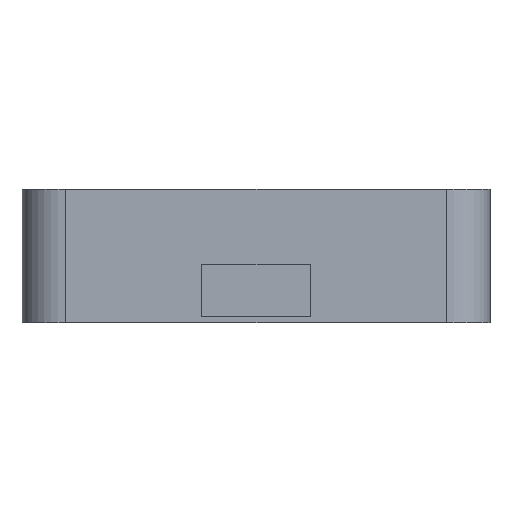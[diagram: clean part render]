
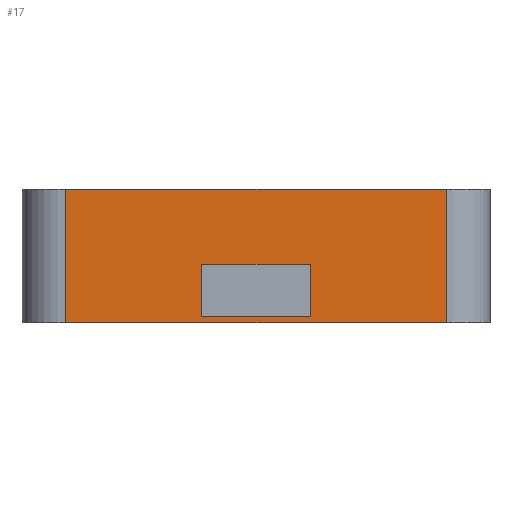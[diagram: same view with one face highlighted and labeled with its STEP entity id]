
A CAD part, left-side view. The second image highlights one B-rep face of the part: STEP entity #17.
In plain terms, the highlighted planar face has unit normal (-1, 0, 0).
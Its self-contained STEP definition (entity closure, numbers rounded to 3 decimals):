
#17 = ADVANCED_FACE('',(#18,#137),#32,.F.);
#18 = FACE_BOUND('',#19,.F.);
#19 = EDGE_LOOP('',(#20,#55,#83,#111));
#20 = ORIENTED_EDGE('',*,*,#21,.T.);
#21 = EDGE_CURVE('',#22,#24,#26,.T.);
#22 = VERTEX_POINT('',#23);
#23 = CARTESIAN_POINT('',(-10.75,-37.75,8.45));
#24 = VERTEX_POINT('',#25);
#25 = CARTESIAN_POINT('',(-10.75,-55.25,8.45));
#26 = SURFACE_CURVE('',#27,(#31,#43),.PCURVE_S1.);
#27 = LINE('',#28,#29);
#28 = CARTESIAN_POINT('',(-10.75,-57.625,8.45));
#29 = VECTOR('',#30,1.);
#30 = DIRECTION('',(0.,-1.,0.));
#31 = PCURVE('',#32,#37);
#32 = PLANE('',#33);
#33 = AXIS2_PLACEMENT_3D('',#34,#35,#36);
#34 = CARTESIAN_POINT('',(-10.75,-57.25,2.3));
#35 = DIRECTION('',(1.,0.,0.));
#36 = DIRECTION('',(0.,0.,1.));
#37 = DEFINITIONAL_REPRESENTATION('',(#38),#42);
#38 = LINE('',#39,#40);
#39 = CARTESIAN_POINT('',(6.15,0.375));
#40 = VECTOR('',#41,1.);
#41 = DIRECTION('',(0.,1.));
#42 = ( GEOMETRIC_REPRESENTATION_CONTEXT(2) 
PARAMETRIC_REPRESENTATION_CONTEXT() REPRESENTATION_CONTEXT('2D SPACE',''
  ) );
#43 = PCURVE('',#44,#49);
#44 = PLANE('',#45);
#45 = AXIS2_PLACEMENT_3D('',#46,#47,#48);
#46 = CARTESIAN_POINT('',(-11.,-58.,8.45));
#47 = DIRECTION('',(0.,0.,1.));
#48 = DIRECTION('',(1.,0.,-0.));
#49 = DEFINITIONAL_REPRESENTATION('',(#50),#54);
#50 = LINE('',#51,#52);
#51 = CARTESIAN_POINT('',(0.25,0.375));
#52 = VECTOR('',#53,1.);
#53 = DIRECTION('',(0.,-1.));
#54 = ( GEOMETRIC_REPRESENTATION_CONTEXT(2) 
PARAMETRIC_REPRESENTATION_CONTEXT() REPRESENTATION_CONTEXT('2D SPACE',''
  ) );
#55 = ORIENTED_EDGE('',*,*,#56,.F.);
#56 = EDGE_CURVE('',#57,#24,#59,.T.);
#57 = VERTEX_POINT('',#58);
#58 = CARTESIAN_POINT('',(-10.75,-55.25,2.3));
#59 = SURFACE_CURVE('',#60,(#64,#71),.PCURVE_S1.);
#60 = LINE('',#61,#62);
#61 = CARTESIAN_POINT('',(-10.75,-55.25,2.3));
#62 = VECTOR('',#63,1.);
#63 = DIRECTION('',(0.,0.,1.));
#64 = PCURVE('',#32,#65);
#65 = DEFINITIONAL_REPRESENTATION('',(#66),#70);
#66 = LINE('',#67,#68);
#67 = CARTESIAN_POINT('',(0.,-2.));
#68 = VECTOR('',#69,1.);
#69 = DIRECTION('',(1.,0.));
#70 = ( GEOMETRIC_REPRESENTATION_CONTEXT(2) 
PARAMETRIC_REPRESENTATION_CONTEXT() REPRESENTATION_CONTEXT('2D SPACE',''
  ) );
#71 = PCURVE('',#72,#77);
#72 = CYLINDRICAL_SURFACE('',#73,2.);
#73 = AXIS2_PLACEMENT_3D('',#74,#75,#76);
#74 = CARTESIAN_POINT('',(-8.75,-55.25,2.3));
#75 = DIRECTION('',(0.,0.,1.));
#76 = DIRECTION('',(-1.,-0.,0.));
#77 = DEFINITIONAL_REPRESENTATION('',(#78),#82);
#78 = LINE('',#79,#80);
#79 = CARTESIAN_POINT('',(0.,0.));
#80 = VECTOR('',#81,1.);
#81 = DIRECTION('',(0.,1.));
#82 = ( GEOMETRIC_REPRESENTATION_CONTEXT(2) 
PARAMETRIC_REPRESENTATION_CONTEXT() REPRESENTATION_CONTEXT('2D SPACE',''
  ) );
#83 = ORIENTED_EDGE('',*,*,#84,.T.);
#84 = EDGE_CURVE('',#57,#85,#87,.T.);
#85 = VERTEX_POINT('',#86);
#86 = CARTESIAN_POINT('',(-10.75,-37.75,2.3));
#87 = SURFACE_CURVE('',#88,(#92,#99),.PCURVE_S1.);
#88 = LINE('',#89,#90);
#89 = CARTESIAN_POINT('',(-10.75,-57.25,2.3));
#90 = VECTOR('',#91,1.);
#91 = DIRECTION('',(0.,1.,0.));
#92 = PCURVE('',#32,#93);
#93 = DEFINITIONAL_REPRESENTATION('',(#94),#98);
#94 = LINE('',#95,#96);
#95 = CARTESIAN_POINT('',(0.,0.));
#96 = VECTOR('',#97,1.);
#97 = DIRECTION('',(0.,-1.));
#98 = ( GEOMETRIC_REPRESENTATION_CONTEXT(2) 
PARAMETRIC_REPRESENTATION_CONTEXT() REPRESENTATION_CONTEXT('2D SPACE',''
  ) );
#99 = PCURVE('',#100,#105);
#100 = PLANE('',#101);
#101 = AXIS2_PLACEMENT_3D('',#102,#103,#104);
#102 = CARTESIAN_POINT('',(-10.75,-57.25,2.3));
#103 = DIRECTION('',(0.,0.,1.));
#104 = DIRECTION('',(1.,0.,-0.));
#105 = DEFINITIONAL_REPRESENTATION('',(#106),#110);
#106 = LINE('',#107,#108);
#107 = CARTESIAN_POINT('',(0.,0.));
#108 = VECTOR('',#109,1.);
#109 = DIRECTION('',(0.,1.));
#110 = ( GEOMETRIC_REPRESENTATION_CONTEXT(2) 
PARAMETRIC_REPRESENTATION_CONTEXT() REPRESENTATION_CONTEXT('2D SPACE',''
  ) );
#111 = ORIENTED_EDGE('',*,*,#112,.T.);
#112 = EDGE_CURVE('',#85,#22,#113,.T.);
#113 = SURFACE_CURVE('',#114,(#118,#125),.PCURVE_S1.);
#114 = LINE('',#115,#116);
#115 = CARTESIAN_POINT('',(-10.75,-37.75,2.3));
#116 = VECTOR('',#117,1.);
#117 = DIRECTION('',(0.,0.,1.));
#118 = PCURVE('',#32,#119);
#119 = DEFINITIONAL_REPRESENTATION('',(#120),#124);
#120 = LINE('',#121,#122);
#121 = CARTESIAN_POINT('',(0.,-19.5));
#122 = VECTOR('',#123,1.);
#123 = DIRECTION('',(1.,0.));
#124 = ( GEOMETRIC_REPRESENTATION_CONTEXT(2) 
PARAMETRIC_REPRESENTATION_CONTEXT() REPRESENTATION_CONTEXT('2D SPACE',''
  ) );
#125 = PCURVE('',#126,#131);
#126 = CYLINDRICAL_SURFACE('',#127,2.);
#127 = AXIS2_PLACEMENT_3D('',#128,#129,#130);
#128 = CARTESIAN_POINT('',(-8.75,-37.75,2.3));
#129 = DIRECTION('',(0.,0.,1.));
#130 = DIRECTION('',(-1.,-0.,0.));
#131 = DEFINITIONAL_REPRESENTATION('',(#132),#136);
#132 = LINE('',#133,#134);
#133 = CARTESIAN_POINT('',(6.283,0.));
#134 = VECTOR('',#135,1.);
#135 = DIRECTION('',(-0.,1.));
#136 = ( GEOMETRIC_REPRESENTATION_CONTEXT(2) 
PARAMETRIC_REPRESENTATION_CONTEXT() REPRESENTATION_CONTEXT('2D SPACE',''
  ) );
#137 = FACE_BOUND('',#138,.F.);
#138 = EDGE_LOOP('',(#139,#169,#197,#225));
#139 = ORIENTED_EDGE('',*,*,#140,.T.);
#140 = EDGE_CURVE('',#141,#143,#145,.T.);
#141 = VERTEX_POINT('',#142);
#142 = CARTESIAN_POINT('',(-10.75,-49.,2.6));
#143 = VERTEX_POINT('',#144);
#144 = CARTESIAN_POINT('',(-10.75,-49.,5.));
#145 = SURFACE_CURVE('',#146,(#150,#157),.PCURVE_S1.);
#146 = LINE('',#147,#148);
#147 = CARTESIAN_POINT('',(-10.75,-49.,2.6));
#148 = VECTOR('',#149,1.);
#149 = DIRECTION('',(0.,0.,1.));
#150 = PCURVE('',#32,#151);
#151 = DEFINITIONAL_REPRESENTATION('',(#152),#156);
#152 = LINE('',#153,#154);
#153 = CARTESIAN_POINT('',(0.3,-8.25));
#154 = VECTOR('',#155,1.);
#155 = DIRECTION('',(1.,0.));
#156 = ( GEOMETRIC_REPRESENTATION_CONTEXT(2) 
PARAMETRIC_REPRESENTATION_CONTEXT() REPRESENTATION_CONTEXT('2D SPACE',''
  ) );
#157 = PCURVE('',#158,#163);
#158 = PLANE('',#159);
#159 = AXIS2_PLACEMENT_3D('',#160,#161,#162);
#160 = CARTESIAN_POINT('',(-19.5,-49.,2.6));
#161 = DIRECTION('',(0.,1.,0.));
#162 = DIRECTION('',(0.,-0.,1.));
#163 = DEFINITIONAL_REPRESENTATION('',(#164),#168);
#164 = LINE('',#165,#166);
#165 = CARTESIAN_POINT('',(0.,8.75));
#166 = VECTOR('',#167,1.);
#167 = DIRECTION('',(1.,0.));
#168 = ( GEOMETRIC_REPRESENTATION_CONTEXT(2) 
PARAMETRIC_REPRESENTATION_CONTEXT() REPRESENTATION_CONTEXT('2D SPACE',''
  ) );
#169 = ORIENTED_EDGE('',*,*,#170,.T.);
#170 = EDGE_CURVE('',#143,#171,#173,.T.);
#171 = VERTEX_POINT('',#172);
#172 = CARTESIAN_POINT('',(-10.75,-44.,5.));
#173 = SURFACE_CURVE('',#174,(#178,#185),.PCURVE_S1.);
#174 = LINE('',#175,#176);
#175 = CARTESIAN_POINT('',(-10.75,-49.,5.));
#176 = VECTOR('',#177,1.);
#177 = DIRECTION('',(0.,1.,0.));
#178 = PCURVE('',#32,#179);
#179 = DEFINITIONAL_REPRESENTATION('',(#180),#184);
#180 = LINE('',#181,#182);
#181 = CARTESIAN_POINT('',(2.7,-8.25));
#182 = VECTOR('',#183,1.);
#183 = DIRECTION('',(0.,-1.));
#184 = ( GEOMETRIC_REPRESENTATION_CONTEXT(2) 
PARAMETRIC_REPRESENTATION_CONTEXT() REPRESENTATION_CONTEXT('2D SPACE',''
  ) );
#185 = PCURVE('',#186,#191);
#186 = PLANE('',#187);
#187 = AXIS2_PLACEMENT_3D('',#188,#189,#190);
#188 = CARTESIAN_POINT('',(-19.5,-49.,5.));
#189 = DIRECTION('',(0.,0.,1.));
#190 = DIRECTION('',(1.,0.,-0.));
#191 = DEFINITIONAL_REPRESENTATION('',(#192),#196);
#192 = LINE('',#193,#194);
#193 = CARTESIAN_POINT('',(8.75,0.));
#194 = VECTOR('',#195,1.);
#195 = DIRECTION('',(0.,1.));
#196 = ( GEOMETRIC_REPRESENTATION_CONTEXT(2) 
PARAMETRIC_REPRESENTATION_CONTEXT() REPRESENTATION_CONTEXT('2D SPACE',''
  ) );
#197 = ORIENTED_EDGE('',*,*,#198,.F.);
#198 = EDGE_CURVE('',#199,#171,#201,.T.);
#199 = VERTEX_POINT('',#200);
#200 = CARTESIAN_POINT('',(-10.75,-44.,2.6));
#201 = SURFACE_CURVE('',#202,(#206,#213),.PCURVE_S1.);
#202 = LINE('',#203,#204);
#203 = CARTESIAN_POINT('',(-10.75,-44.,2.6));
#204 = VECTOR('',#205,1.);
#205 = DIRECTION('',(0.,0.,1.));
#206 = PCURVE('',#32,#207);
#207 = DEFINITIONAL_REPRESENTATION('',(#208),#212);
#208 = LINE('',#209,#210);
#209 = CARTESIAN_POINT('',(0.3,-13.25));
#210 = VECTOR('',#211,1.);
#211 = DIRECTION('',(1.,0.));
#212 = ( GEOMETRIC_REPRESENTATION_CONTEXT(2) 
PARAMETRIC_REPRESENTATION_CONTEXT() REPRESENTATION_CONTEXT('2D SPACE',''
  ) );
#213 = PCURVE('',#214,#219);
#214 = PLANE('',#215);
#215 = AXIS2_PLACEMENT_3D('',#216,#217,#218);
#216 = CARTESIAN_POINT('',(-19.5,-44.,2.6));
#217 = DIRECTION('',(0.,1.,0.));
#218 = DIRECTION('',(0.,-0.,1.));
#219 = DEFINITIONAL_REPRESENTATION('',(#220),#224);
#220 = LINE('',#221,#222);
#221 = CARTESIAN_POINT('',(0.,8.75));
#222 = VECTOR('',#223,1.);
#223 = DIRECTION('',(1.,0.));
#224 = ( GEOMETRIC_REPRESENTATION_CONTEXT(2) 
PARAMETRIC_REPRESENTATION_CONTEXT() REPRESENTATION_CONTEXT('2D SPACE',''
  ) );
#225 = ORIENTED_EDGE('',*,*,#226,.F.);
#226 = EDGE_CURVE('',#141,#199,#227,.T.);
#227 = SURFACE_CURVE('',#228,(#232,#239),.PCURVE_S1.);
#228 = LINE('',#229,#230);
#229 = CARTESIAN_POINT('',(-10.75,-49.,2.6));
#230 = VECTOR('',#231,1.);
#231 = DIRECTION('',(0.,1.,0.));
#232 = PCURVE('',#32,#233);
#233 = DEFINITIONAL_REPRESENTATION('',(#234),#238);
#234 = LINE('',#235,#236);
#235 = CARTESIAN_POINT('',(0.3,-8.25));
#236 = VECTOR('',#237,1.);
#237 = DIRECTION('',(0.,-1.));
#238 = ( GEOMETRIC_REPRESENTATION_CONTEXT(2) 
PARAMETRIC_REPRESENTATION_CONTEXT() REPRESENTATION_CONTEXT('2D SPACE',''
  ) );
#239 = PCURVE('',#240,#245);
#240 = PLANE('',#241);
#241 = AXIS2_PLACEMENT_3D('',#242,#243,#244);
#242 = CARTESIAN_POINT('',(-19.5,-49.,2.6));
#243 = DIRECTION('',(0.,0.,1.));
#244 = DIRECTION('',(1.,0.,-0.));
#245 = DEFINITIONAL_REPRESENTATION('',(#246),#250);
#246 = LINE('',#247,#248);
#247 = CARTESIAN_POINT('',(8.75,0.));
#248 = VECTOR('',#249,1.);
#249 = DIRECTION('',(0.,1.));
#250 = ( GEOMETRIC_REPRESENTATION_CONTEXT(2) 
PARAMETRIC_REPRESENTATION_CONTEXT() REPRESENTATION_CONTEXT('2D SPACE',''
  ) );
